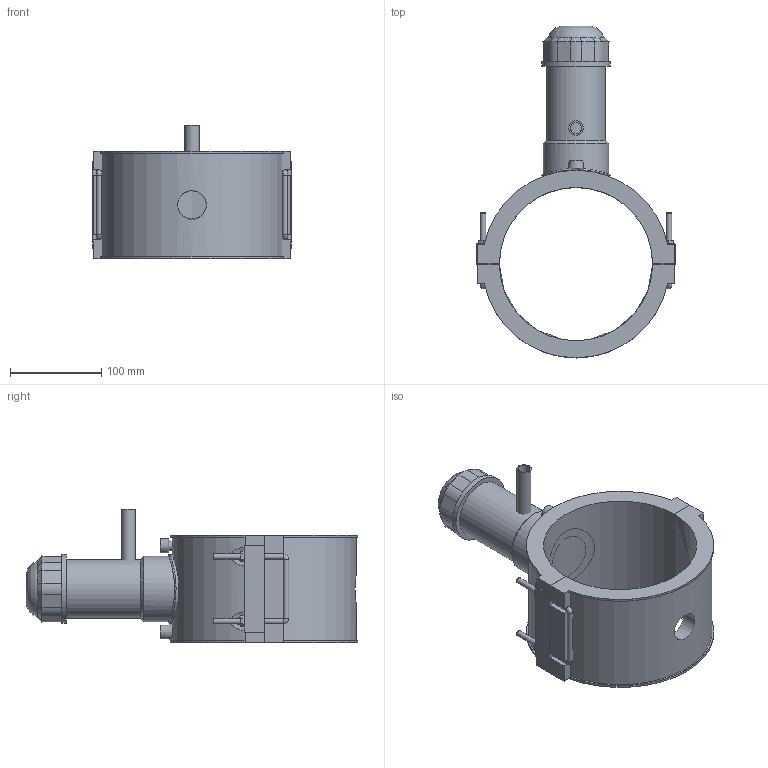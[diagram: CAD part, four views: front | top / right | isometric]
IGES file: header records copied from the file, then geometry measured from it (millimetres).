
Global section: file name: 5963BUP3060005.ipt; native system: Autodesk Inventor 2019; preprocessor: unknown; author: KIM; date: 20210830.101623; units: inch
Bounding box: 217.9 x 363.85 x 146.43 mm (x, y, z)
Volume: 1590763.8 mm3; surface area: 265855.3 mm2
Topology: 3 solids, 4 shells, 185 faces, 464 edges, 293 vertices
Faces by surface type: plane 115, cylinder 33, cone 15, revolution 13, bspline 9
Full cylindrical faces by diameter (mm): 4 x2, 6 x10, 15.8 x1, 64.26 x1, 71.82 x1, 75.6 x2
